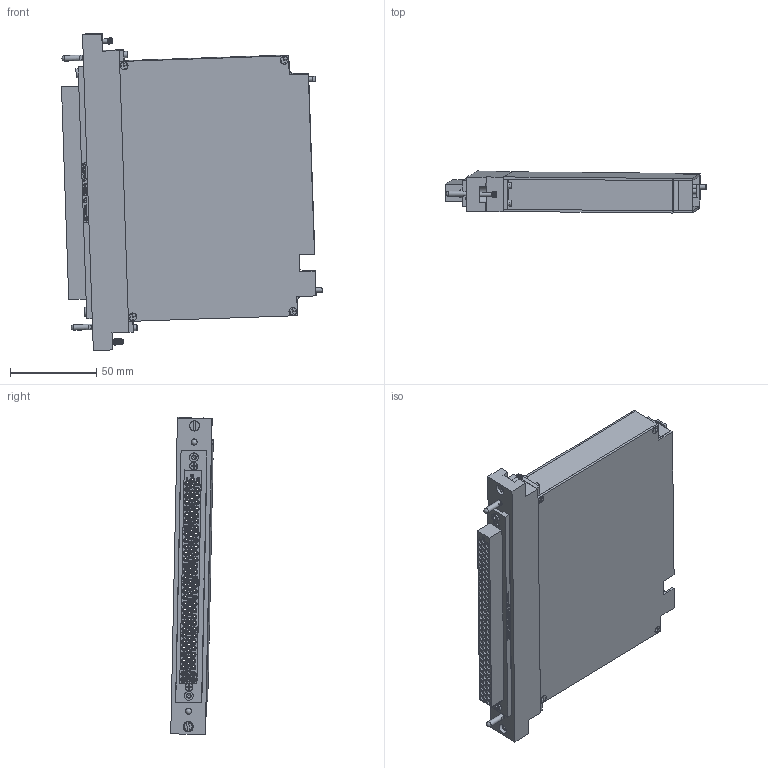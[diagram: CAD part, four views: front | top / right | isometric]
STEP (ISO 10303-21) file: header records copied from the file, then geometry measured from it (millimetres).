
FILE_DESCRIPTION((''),'2;1');
FILE_NAME('C:\old_Drawings\shrinkwrapped website .stp files\561073-STP.stp','2011-08-15T11:57:19',('GaryRobinson'),(''),'Autodesk Inventor 2011','Autodesk Inventor 2011','');
FILE_SCHEMA(('AUTOMOTIVE_DESIGN { 1 0 10303 214 1 1 1 1 }'));
Length unit declared in the file: inch
Products named in the file (1): DAK with 96 discreet-STP
Bounding box: 151.43 x 24.67 x 183.92 mm (x, y, z)
Surface area: 129183.7 mm2 (no closed solid volume)
Topology: 0 solids, 30 shells, 2428 faces, 6087 edges, 4011 vertices
Faces by surface type: plane 1195, cylinder 532, bspline 427, cone 271, sphere 2, torus 1
Full cylindrical faces by diameter (mm): 0.127 x1, 1.829 x96, 2.083 x192, 2.184 x26, 2.381 x2, 2.438 x16, 2.5 x1, 2.54 x3, 2.731 x1, 2.845 x15, 2.921 x96, 2.946 x6, 2.997 x1, 3.175 x2, 3.302 x2, 3.429 x2, 3.556 x4, 3.734 x1, 3.81 x2, 3.962 x4, 4.064 x2, 4.5 x1, 4.572 x1, 4.763 x2, 4.851 x1, 5.08 x2, 5.537 x2, 5.953 x2
Entity records: 74622 total; most frequent: CARTESIAN_POINT 19385, ORIENTED_EDGE 10286, DIRECTION 9491, EDGE_CURVE 5143, EDGE_LOOP 3903, VERTEX_POINT 3824, AXIS2_PLACEMENT_3D 3327, VECTOR 2837
